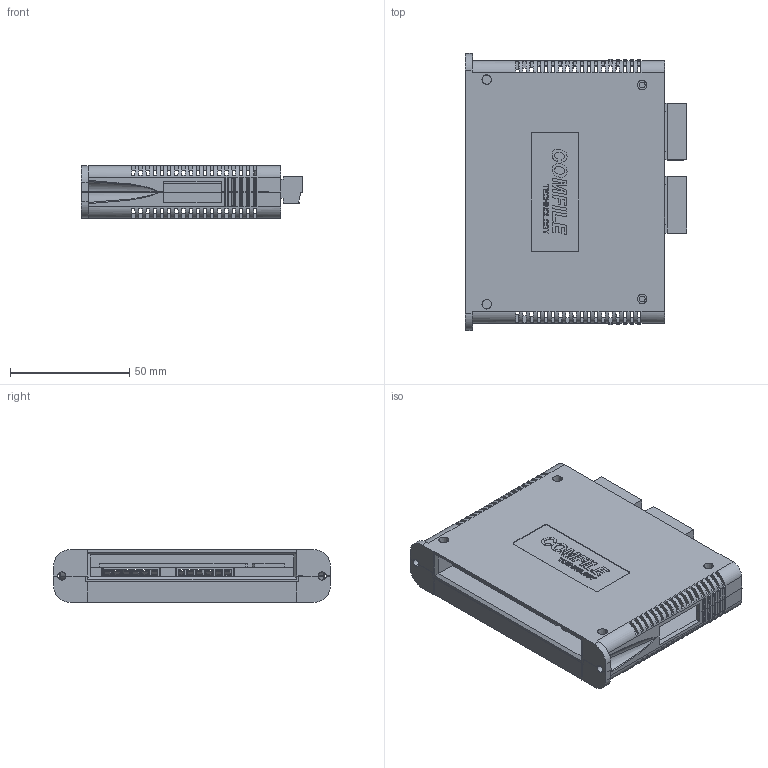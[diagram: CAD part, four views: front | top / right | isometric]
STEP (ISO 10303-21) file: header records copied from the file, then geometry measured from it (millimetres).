
FILE_DESCRIPTION (( 'STEP AP214' ), '1' );
FILE_NAME ('CF-DOSO8_ASM.STEP', '2016-05-30T02:21:58', ( 'Registered User' ), ( 'Microsoft Corporation' ), 'SwSTEP 2.0', 'SolidWorks 2014', '' );
FILE_SCHEMA (( 'AUTOMOTIVE_DESIGN' ));
Length unit declared in the file: millimetre
Products named in the file (1): CF-DOSO8_ASM
Bounding box: 92.6 x 116 x 22 mm (x, y, z)
Surface area: 47560.6 mm2 (no closed solid volume)
Topology: 0 solids, 10 shells, 995 faces, 3842 edges, 2687 vertices
Faces by surface type: plane 823, cylinder 160, cone 8, bspline 4
Entity records: 50102 total; most frequent: CARTESIAN_POINT 9059, ORIENTED_EDGE 5994, DIRECTION 5619, EDGE_CURVE 3842, LINE 3109, VECTOR 3109, VERTEX_POINT 2687, AXIS2_PLACEMENT_3D 1255
